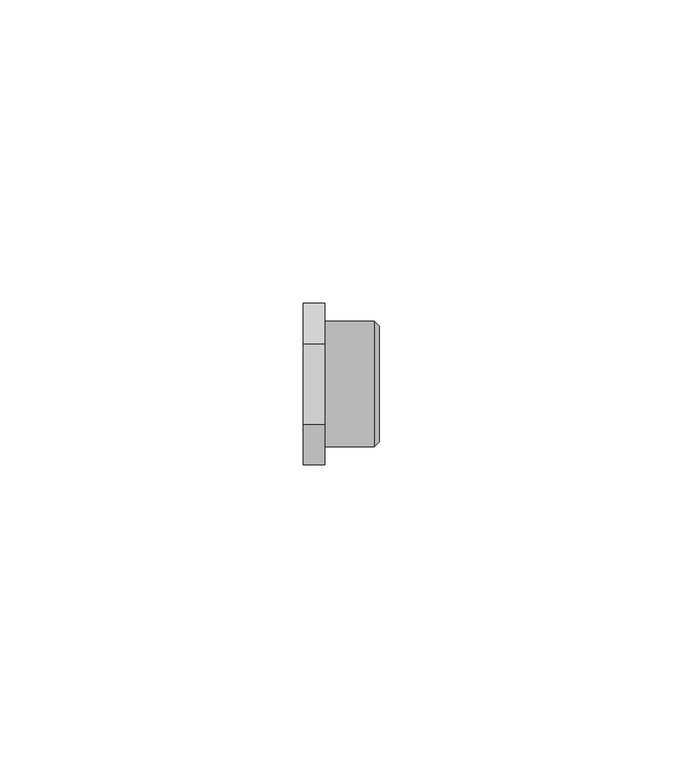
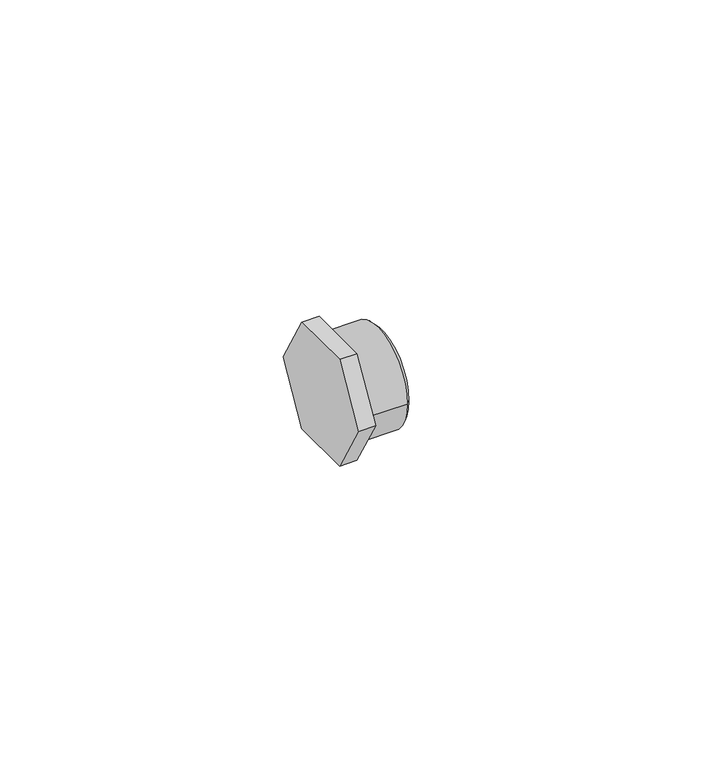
"""IFC4 building model written with IfcOpenShell, lengths in millimetres: pipe fitting geometry, Astra Gás - Tampão Macho para Distribuidor - TAPM : Astra Gás - Tampão Macho para Distribuidor - TAPM."""

from ifc_helpers import new_model, si_unit, frame, origin, place, context, project, spatial, polyline, circle_curve, outline, extrude, source, transform, mapped, element, save
from ifc_brep_helpers import plane_surface, cylinder_surface, revolved_surface, advanced_brep


def pipe_fitting_d305088d(model_context):
    return source(origin(), model_context, "Body", "SolidModel", [
        extrude(outline(polyline([(-13.2790562, 0.0), (-6.6395281, 11.5), (6.6395281, 11.5), (13.2790562, 0.0), (6.6395281, -11.5), (-6.6395281, -11.5), (-13.2790562, 0.0)])), frame((-6.250011, 0.0, 0.0), z_axis=(1.0, 0.0, 0.0), x_axis=(0.0, 1.0, 0.0)), (0.0, 0.0, 1.0), 3.5),
        advanced_brep(
        [(-2.750011, -10.3, 0.0), (-2.750011, 10.3, 0.0), (5.4501797, 10.3, 0.0), (5.4501797, -10.3, 0.0), (-2.750011, -7.5, 0.0), (-2.750011, 7.5, 0.0), (6.249989, -9.4999832, 0.0), (6.249989, 9.4999832, 0.0), (6.249989, 7.5, 0.0), (6.249989, -7.5, 0.0)],
        [
            (0, 1, circle_curve(frame((-2.750011, 0.0, 0.0), z_axis=(1.0, 0.0, 0.0), x_axis=(0.0, 1.0, 0.0)), 10.3)),
            (1, 2),
            (2, 3, circle_curve(frame((5.4501797, 0.0, 0.0), z_axis=(-1.0, 0.0, 0.0), x_axis=(0.0, 1.0, 0.0)), 10.3)),
            (3, 0),
            (1, 0, circle_curve(frame((-2.750011, 0.0, 0.0), z_axis=(1.0, 0.0, 0.0), x_axis=(0.0, 1.0, 0.0)), 10.3)),
            (3, 2, circle_curve(frame((5.4501797, 0.0, 0.0), z_axis=(-1.0, 0.0, 0.0), x_axis=(0.0, 1.0, 0.0)), 10.3)),
            (0, 4),
            (4, 5, circle_curve(frame((-2.750011, 0.0, 0.0), z_axis=(1.0, 0.0, 0.0), x_axis=(0.0, 1.0, 0.0)), 7.5)),
            (5, 1),
            (5, 4, circle_curve(frame((-2.750011, 0.0, 0.0), z_axis=(1.0, 0.0, 0.0), x_axis=(0.0, 1.0, 0.0)), 7.5)),
            (6, 7, circle_curve(frame((6.249989, 0.0, 0.0), z_axis=(1.0, 0.0, 0.0), x_axis=(0.0, 1.0, 0.0)), 9.4999832)),
            (7, 8),
            (8, 9, circle_curve(frame((6.249989, 0.0, 0.0), z_axis=(-1.0, 0.0, 0.0), x_axis=(0.0, 1.0, 0.0)), 7.5)),
            (9, 6),
            (7, 6, circle_curve(frame((6.249989, 0.0, 0.0), z_axis=(1.0, 0.0, 0.0), x_axis=(0.0, 1.0, 0.0)), 9.4999832)),
            (9, 8, circle_curve(frame((6.249989, 0.0, 0.0), z_axis=(-1.0, 0.0, 0.0), x_axis=(0.0, 1.0, 0.0)), 7.5)),
            (2, 7),
            (6, 3),
            (8, 5),
            (4, 9),
        ],
        [
            cylinder_surface(frame((-2.750011, 0.0, 0.0), z_axis=(-1.0, 0.0, 0.0), x_axis=(0.0, 1.0, 0.0)), 10.3),
            plane_surface(frame((-2.750011, 0.0, 0.0), z_axis=(-1.0, 0.0, 0.0), x_axis=(0.0, 1.0, 0.0))),
            plane_surface(frame((6.249989, 0.0, 0.0), z_axis=(1.0, 0.0, 0.0), x_axis=(0.0, 1.0, 0.0))),
            revolved_surface(polyline([(6.249989, 9.4999832, 0.0), (5.4501797, 10.3, 0.0)]), (-2.750011, 0.0, 0.0), (-1.0, 0.0, 0.0)),
            revolved_surface(polyline([(-2.750011, 7.5, 0.0), (6.249988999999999, 7.5, 0.0)]), (-3.750011, 0.0, 0.0), (-1.0, 0.0, 0.0)),
        ],
        [
            (0, [[1, 2, 3, 4]]),
            (0, [[-2, 5, -4, 6]]),
            (1, [[-1, 7, 8, 9]]),
            (1, [[-5, -9, 10, -7]]),
            (2, [[11, 12, 13, 14]]),
            (2, [[15, -14, 16, -12]]),
            (3, [[-3, 17, -11, 18]]),
            (3, [[-6, -18, -15, -17]]),
            (4, [[19, -8, 20, -13]]),
            (4, [[-19, -16, -20, -10]]),
        ],
    ),
    ])


if __name__ == "__main__":
    model = new_model("IFC4")
    model_context = context("Model", 3, world=origin())
    ifc_project = project(units=[si_unit("LENGTHUNIT", "METRE", prefix="MILLI")], contexts=[model_context])
    site = spatial("IfcSite", under=ifc_project)
    building = spatial("IfcBuilding", under=site)
    placement = place(None, origin())
    pipe_fitting_shape = pipe_fitting_d305088d(model_context)
    element("IfcPipeFitting", 1, ObjectType="Astra Gás - Tampão Macho para Distribuidor - TAPM : Astra Gás - Tampão Macho para Distribuidor - TAPM", at=placement, inside=building, context=model_context, shape_type="MappedRepresentation", body=[
        mapped(pipe_fitting_shape, transform((0.0, 0.0, 0.0), x_axis=(1.0, 0.0, 0.0), y_axis=(0.0, 1.0, 0.0), z_axis=(0.0, 0.0, 1.0))),
    ])
    save(model, "model.ifc")
